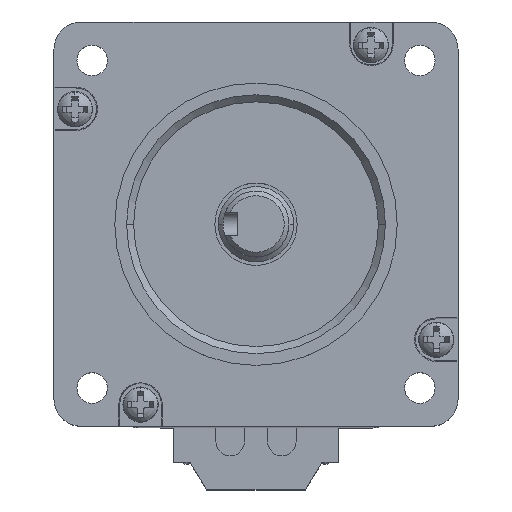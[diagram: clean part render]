
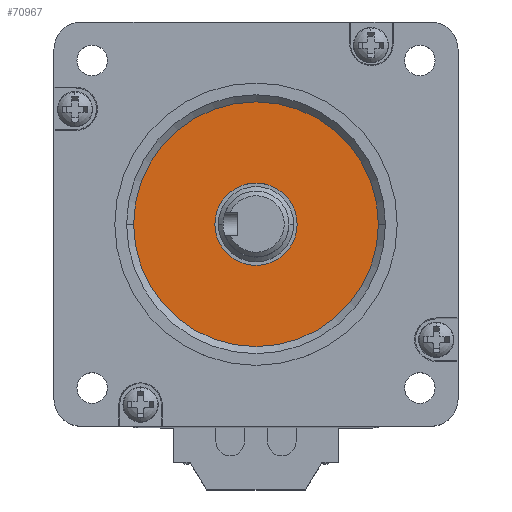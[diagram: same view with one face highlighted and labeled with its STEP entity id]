
A CAD part, top view. The second image highlights one B-rep face of the part: STEP entity #70967.
In plain terms, the highlighted planar face has unit normal (0, 0, 1).
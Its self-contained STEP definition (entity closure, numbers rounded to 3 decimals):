
#6170 = VERTEX_POINT ( 'NONE', #23765 ) ;
#7304 = DIRECTION ( 'NONE',  ( 1., 0., 0. ) ) ;
#9454 = VERTEX_POINT ( 'NONE', #192559 ) ;
#10167 = ORIENTED_EDGE ( 'NONE', *, *, #57580, .T. ) ;
#20502 = CARTESIAN_POINT ( 'NONE',  ( 26., 0., 134. ) ) ;
#23285 = DIRECTION ( 'NONE',  ( 0., 0., 1. ) ) ;
#23417 = AXIS2_PLACEMENT_3D ( 'NONE', #113817, #23285, #129091 ) ;
#23765 = CARTESIAN_POINT ( 'NONE',  ( -26., 0., 134. ) ) ;
#45113 = CARTESIAN_POINT ( 'NONE',  ( 8.75, 0., 134. ) ) ;
#54086 = EDGE_CURVE ( 'NONE', #72221, #9454, #89470, .T. ) ;
#54362 = FACE_OUTER_BOUND ( 'NONE', #169578, .T. ) ;
#57580 = EDGE_CURVE ( 'NONE', #194429, #6170, #63397, .T. ) ;
#62125 = AXIS2_PLACEMENT_3D ( 'NONE', #188419, #97923, #7304 ) ;
#63133 = CARTESIAN_POINT ( 'NONE',  ( 0., 0., 134. ) ) ;
#63397 = CIRCLE ( 'NONE', #167120, 26. ) ;
#67531 = EDGE_CURVE ( 'NONE', #6170, #194429, #145352, .T. ) ;
#68954 = ORIENTED_EDGE ( 'NONE', *, *, #88485, .F. ) ;
#70967 = ADVANCED_FACE ( 'NONE', ( #54362, #179653 ), #169465, .T. ) ;
#71892 = ORIENTED_EDGE ( 'NONE', *, *, #54086, .F. ) ;
#72221 = VERTEX_POINT ( 'NONE', #45113 ) ;
#74970 = DIRECTION ( 'NONE',  ( 0., 0., 1. ) ) ;
#83567 = DIRECTION ( 'NONE',  ( 0., 0., 1. ) ) ;
#86717 = AXIS2_PLACEMENT_3D ( 'NONE', #63133, #184635, #94146 ) ;
#88485 = EDGE_CURVE ( 'NONE', #9454, #72221, #175046, .T. ) ;
#89470 = CIRCLE ( 'NONE', #23417, 8.75 ) ;
#94146 = DIRECTION ( 'NONE',  ( 1., 0., 0. ) ) ;
#97923 = DIRECTION ( 'NONE',  ( 0., 0., 1. ) ) ;
#98775 = AXIS2_PLACEMENT_3D ( 'NONE', #165433, #74970, #180614 ) ;
#112891 = ORIENTED_EDGE ( 'NONE', *, *, #67531, .T. ) ;
#113817 = CARTESIAN_POINT ( 'NONE',  ( 0., 0., 134. ) ) ;
#129091 = DIRECTION ( 'NONE',  ( 1., 0., 0. ) ) ;
#145352 = CIRCLE ( 'NONE', #98775, 26. ) ;
#159772 = EDGE_LOOP ( 'NONE', ( #68954, #71892 ) ) ;
#165433 = CARTESIAN_POINT ( 'NONE',  ( 0., 0., 134. ) ) ;
#167120 = AXIS2_PLACEMENT_3D ( 'NONE', #173971, #83567, #189171 ) ;
#169465 = PLANE ( 'NONE',  #86717 ) ;
#169578 = EDGE_LOOP ( 'NONE', ( #10167, #112891 ) ) ;
#173971 = CARTESIAN_POINT ( 'NONE',  ( 0., 0., 134. ) ) ;
#175046 = CIRCLE ( 'NONE', #62125, 8.75 ) ;
#179653 = FACE_BOUND ( 'NONE', #159772, .T. ) ;
#180614 = DIRECTION ( 'NONE',  ( 1., 0., 0. ) ) ;
#184635 = DIRECTION ( 'NONE',  ( 0., 0., 1. ) ) ;
#188419 = CARTESIAN_POINT ( 'NONE',  ( 0., 0., 134. ) ) ;
#189171 = DIRECTION ( 'NONE',  ( 1., 0., 0. ) ) ;
#192559 = CARTESIAN_POINT ( 'NONE',  ( -8.75, 0., 134. ) ) ;
#194429 = VERTEX_POINT ( 'NONE', #20502 ) ;
